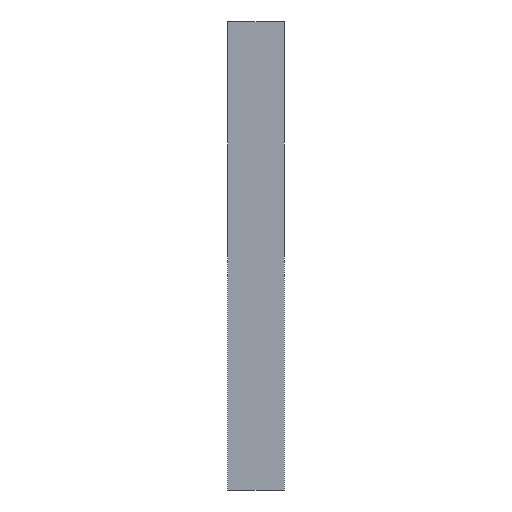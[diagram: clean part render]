
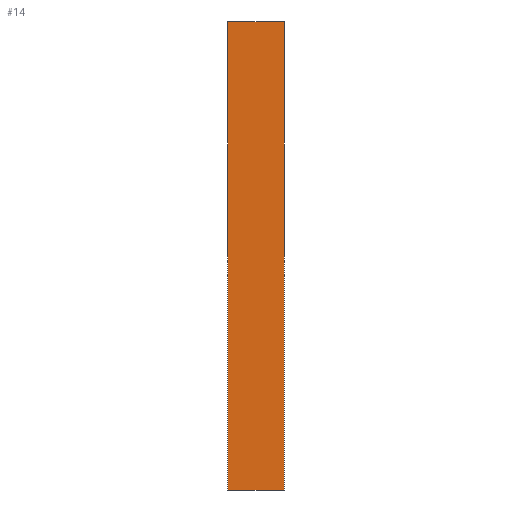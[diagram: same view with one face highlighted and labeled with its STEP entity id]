
A CAD part, front view. The second image highlights one B-rep face of the part: STEP entity #14.
In plain terms, the highlighted planar face has unit normal (0, -1, 0).
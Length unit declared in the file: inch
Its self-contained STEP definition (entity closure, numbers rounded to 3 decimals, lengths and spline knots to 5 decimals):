
#14=ADVANCED_FACE('',(#20),#88,.T.);
#20=FACE_OUTER_BOUND('',#26,.T.);
#26=EDGE_LOOP('',(#32,#33,#34,#35));
#32=ORIENTED_EDGE('',*,*,#56,.T.);
#33=ORIENTED_EDGE('',*,*,#65,.T.);
#34=ORIENTED_EDGE('',*,*,#60,.F.);
#35=ORIENTED_EDGE('',*,*,#64,.F.);
#56=EDGE_CURVE('',#80,#81,#68,.T.);
#60=EDGE_CURVE('',#84,#85,#72,.T.);
#64=EDGE_CURVE('',#80,#84,#76,.T.);
#65=EDGE_CURVE('',#81,#85,#77,.T.);
#68=B_SPLINE_CURVE_WITH_KNOTS('',1,(#217,#218),.UNSPECIFIED.,.F.,.F.,(2,
2),(0.,1.2),.UNSPECIFIED.);
#72=B_SPLINE_CURVE_WITH_KNOTS('',1,(#225,#226),.UNSPECIFIED.,.F.,.F.,(2,
2),(0.,1.2),.UNSPECIFIED.);
#76=B_SPLINE_CURVE_WITH_KNOTS('',1,(#233,#234),.UNSPECIFIED.,.F.,.F.,(2,
2),(0.,10.),.UNSPECIFIED.);
#77=B_SPLINE_CURVE_WITH_KNOTS('',1,(#235,#236),.UNSPECIFIED.,.F.,.F.,(2,
2),(0.,10.),.UNSPECIFIED.);
#80=VERTEX_POINT('',#209);
#81=VERTEX_POINT('',#210);
#84=VERTEX_POINT('',#213);
#85=VERTEX_POINT('',#214);
#88=PLANE('',#185);
#185=AXIS2_PLACEMENT_3D('',#203,#194,$);
#194=DIRECTION('',(0.,-1.,0.));
#203=CARTESIAN_POINT('',(0.,0.,0.));
#209=CARTESIAN_POINT('',(0.,0.,0.));
#210=CARTESIAN_POINT('',(1.2,0.,0.));
#213=CARTESIAN_POINT('',(0.,0.,10.));
#214=CARTESIAN_POINT('',(1.2,0.,10.));
#217=CARTESIAN_POINT('',(0.,0.,0.));
#218=CARTESIAN_POINT('',(1.2,0.,0.));
#225=CARTESIAN_POINT('',(0.,0.,10.));
#226=CARTESIAN_POINT('',(1.2,0.,10.));
#233=CARTESIAN_POINT('',(0.,0.,0.));
#234=CARTESIAN_POINT('',(0.,0.,10.));
#235=CARTESIAN_POINT('',(1.2,0.,0.));
#236=CARTESIAN_POINT('',(1.2,0.,10.));
